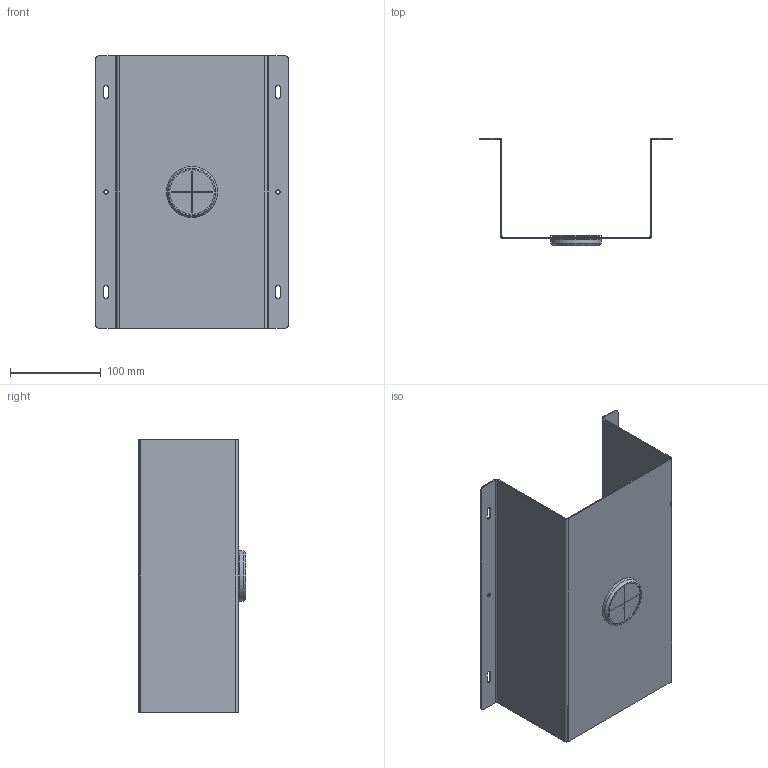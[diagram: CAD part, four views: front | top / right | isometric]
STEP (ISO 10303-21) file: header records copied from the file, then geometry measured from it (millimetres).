
FILE_DESCRIPTION(('STEP AP214'),'1');
FILE_NAME('N522-160x300-R.stp','2026-08-07T01:56:11',(' '),(' '),'Spatial InterOp 3D',' ',' ');
FILE_SCHEMA(('AUTOMOTIVE_DESIGN { 1 0 10303 214 1 1 1 1 }'));
Length unit declared in the file: metre
Products named in the file (3): N522-160x300-R; CableTray160; N401-51
Assembly tree (2 placements, depth 2):
  N522-160x300-R
    CableTray160
    N401-51
Bounding box: 213 x 118.2 x 300 mm (x, y, z)
Volume: 157404.4 mm3; surface area: 262836.9 mm2
Topology: 2 solids, 2 shells, 69 faces, 183 edges, 122 vertices
Faces by surface type: plane 40, cylinder 28, cone 1
Full cylindrical faces by diameter (mm): 4.5 x2, 49 x2, 51 x2, 56 x2
Entity records: 3193 total; most frequent: DIRECTION 374, CARTESIAN_POINT 366, ORIENTED_EDGE 346, EDGE_CURVE 173, STYLED_ITEM 158, PRESENTATION_STYLE_ASSIGNMENT 158, COLOUR_RGB 158, AXIS2_PLACEMENT_3D 129
